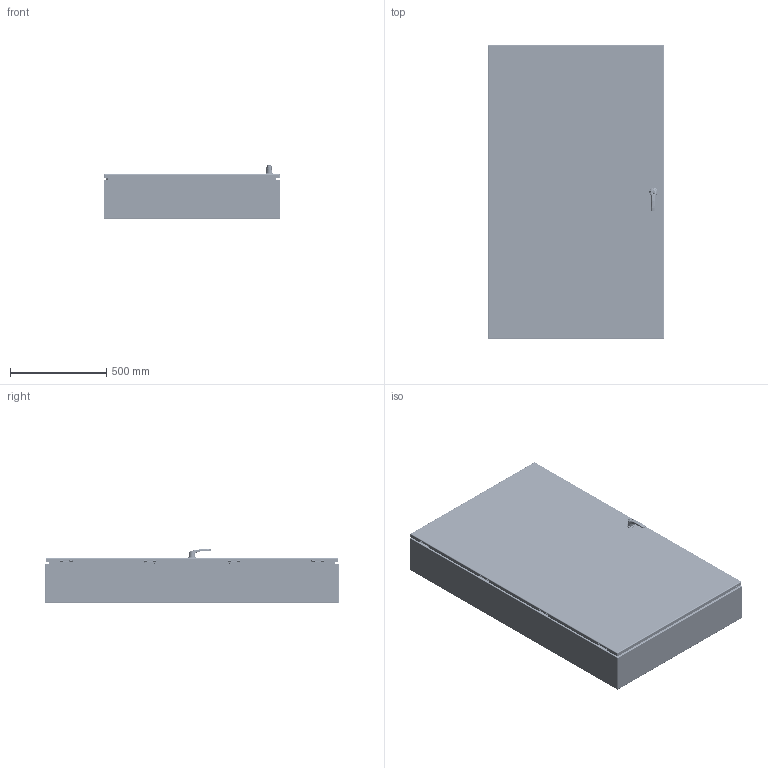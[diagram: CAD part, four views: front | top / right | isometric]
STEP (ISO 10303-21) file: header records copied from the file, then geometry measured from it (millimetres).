
FILE_DESCRIPTION(/* description */ ('5412ES 60" x 36" x 8" Assembly'),/* implementation_level */ '2;1');
FILE_NAME(/* name */ 'C:\Vault_Workspace\Inventor_Dwg\BoxCad\Result\5412ESB603608\e-mail\3D\5412ESB603608.stp',/* time_stamp */ '2022-03-24T13:29:02-04:00',/* author */ ('BoxCad'),/* organization */ (''),/* preprocessor_version */ 'ST-DEVELOPER v18.1',/* originating_system */ 'Autodesk Inventor 2020',/* authorisation */ '');
FILE_SCHEMA (('AUTOMOTIVE_DESIGN { 1 0 10303 214 3 1 1 }'));
Products named in the file (61): 5412ESB603608; 5412ESB603608B; 5412ESB603608B-P; STK-Q-16005; STUD_M6 x 16mm; STK-Q-07610; 881SP6036G; 881SP6036G-P; STK-Q-07310; 5412ESB603608C; 5412ESB603608C-P; 5412ESB603608G; STK-K-09800; STK-K-09800-2; STK-K-09800-3; STK-K-09800-4; STK-Q-33014; STK-Q-90398; STK-Q-40095; STK-Q-63410; STK-Q-16405; STK-Q-46020-60; STK-Q-46025-36-3; STK-Q-07220-1; STK-Q-07220-2; STK-Q-07220-3; STK-Q-07220-4; STK-Q-07220-5; STK-Q-07220-6; STK-Q-07220-7; STK-Q-07220-8; STK-Q-07220-9; STK-Q-07220-10; STK-Q-07220-A; STK-Q-07220-B; STK-Q-16055; STK-Q-46515-1; STK-Q-46515-B; STK-Q-46515-A; STK-P-03820R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
Assembly tree (141 placements, depth 4):
  5412ESB603608
    5412ESB603608B
      5412ESB603608B-P
      STK-Q-16005  x8
      STK-P-03820R
      STUD_M6 x 16mm
    STK-Q-07610  x8
    881SP6036G
      881SP6036G-P
    STK-Q-07310  x8
    5412ESB603608C
      5412ESB603608C-P
      5412ESB603608G
      STK-K-09800
        STK-Q-33014
        STK-Q-90398
        STK-Q-40095  x2
        STK-Q-63410  x2
      STK-K-09800-2
        STK-Q-33014
        STK-Q-90398
        STK-Q-40095  x2
        STK-Q-63410  x2
      STK-K-09800-3
        STK-Q-33014
        STK-Q-90398
        STK-Q-40095  x2
        STK-Q-63410  x2
      STK-K-09800-4
        STK-Q-33014
        STK-Q-90398
        STK-Q-40095  x2
        STK-Q-63410  x2
      STK-Q-16055  x11
      STK-Q-16405  x2
      STK-Q-46020-60  x2
      STK-Q-46025-36-3  x2
      STK-Q-07220-1
        STK-Q-07220-A
        STK-Q-07220-B
      STK-Q-07220-2
        STK-Q-07220-A
        STK-Q-07220-B
      STK-Q-07220-3
        STK-Q-07220-A
        STK-Q-07220-B
      STK-Q-07220-4
        STK-Q-07220-A
        STK-Q-07220-B
      STK-Q-07220-5
        STK-Q-07220-A
        STK-Q-07220-B
      STK-Q-07220-6
        STK-Q-07220-A
        STK-Q-07220-B
      STK-Q-07220-7
        STK-Q-07220-A
        STK-Q-07220-B
      STK-Q-07220-8
        STK-Q-07220-A
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Bounding box: 914.85 x 1524 x 279.79 mm (x, y, z)
Volume: 11206482.6 mm3; surface area: 11549420 mm2
Topology: 114 solids, 114 shells, 18675 faces, 50372 edges, 32202 vertices
Faces by surface type: bspline 6962, cylinder 5267, plane 4328, torus 1483, sphere 328, cone 307
Full cylindrical faces by diameter (mm): 0 x1, 0.75 x22, 0.762 x22, 1 x16, 1.1 x16, 1.581 x1, 2.459 x1, 3.2 x8, 4.191 x170, 4.2 x2, 4.5 x11, 4.521 x16, 4.75 x4, 4.85 x32, 4.95 x8, 5 x10, 5.1 x35, 5.105 x13, 5.11 x1, 5.156 x2, 5.6 x4, 5.9 x28, 6.015 x170, 6.65 x8, 6.8 x10, 6.85 x32, 7.3 x4, 7.366 x4, 7.468 x2, 7.5 x2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
Entity records: 217929 total; most frequent: CARTESIAN_POINT 80407, ORIENTED_EDGE 30492, DIRECTION 24395, EDGE_CURVE 15246, VERTEX_POINT 9684, AXIS2_PLACEMENT_3D 9060, EDGE_LOOP 6538, LINE 6275
